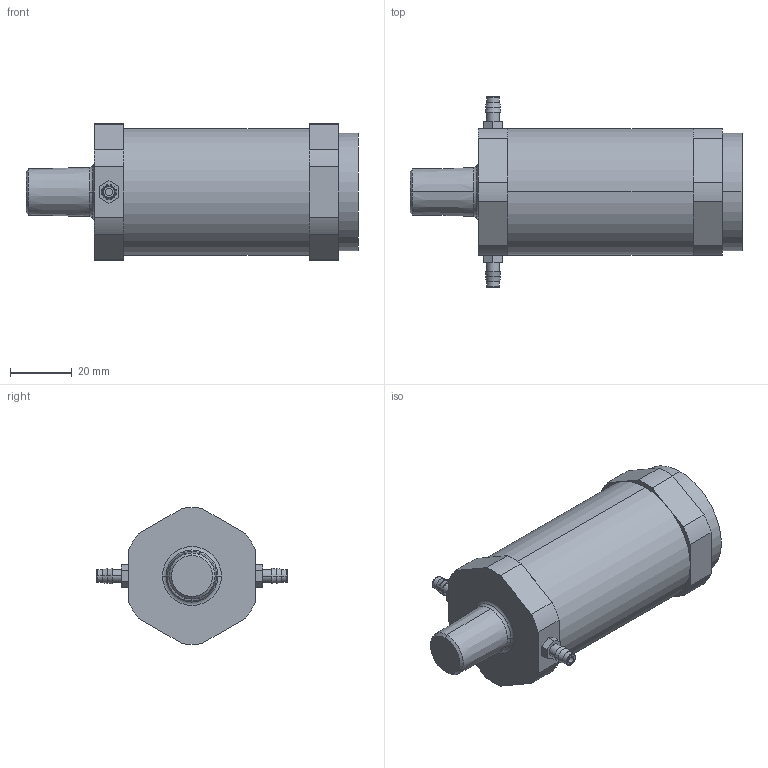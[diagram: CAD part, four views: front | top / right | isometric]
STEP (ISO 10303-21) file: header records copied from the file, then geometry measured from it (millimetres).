
FILE_DESCRIPTION((''),'2;1');
FILE_NAME('XCR4_ASM','2017-08-24T',('jennifer.elliott'),('CenterLine (Windsor) Ltd - Automation Components Division'),'PRO/ENGINEER BY PARAMETRIC TECHNOLOGY CORPORATION, 2015030','PRO/ENGINEER BY PARAMETRIC TECHNOLOGY CORPORATION, 2015030','');
FILE_SCHEMA(('AUTOMOTIVE_DESIGN { 1 0 10303 214 1 1 1 1 }'));
Length unit declared in the file: inch
Products named in the file (7): PRT0992; PRT0993; PRT0994; PRT0995; PRT0996; PRT0997; XCR4_ASM
Assembly tree (6 placements, depth 2):
  XCR4_ASM
    PRT0992
    PRT0993
    PRT0994
    PRT0995
    PRT0996
    PRT0997
Bounding box: 107.95 x 61.9 x 44.45 mm (x, y, z)
Volume: 120018.4 mm3; surface area: 23563.7 mm2
Topology: 6 solids, 6 shells, 95 faces, 237 edges, 161 vertices
Faces by surface type: plane 43, cylinder 28, torus 12, cone 12
Entity records: 3362 total; most frequent: DIRECTION 578, CARTESIAN_POINT 525, ORIENTED_EDGE 474, EDGE_CURVE 237, AXIS2_PLACEMENT_3D 233, VERTEX_POINT 161, CIRCLE 125, VECTOR 112
